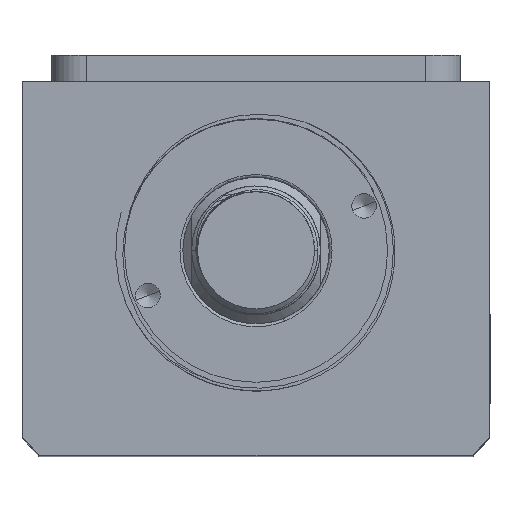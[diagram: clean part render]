
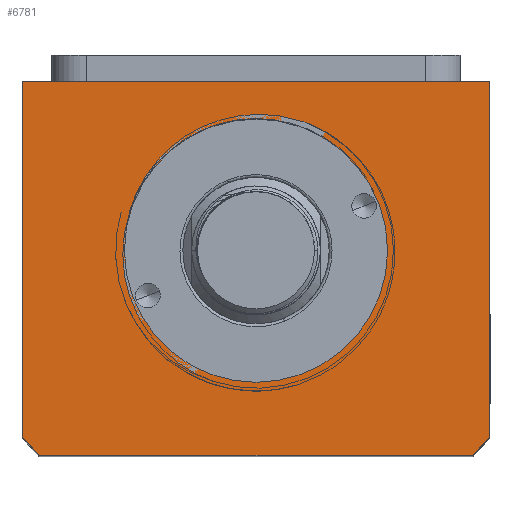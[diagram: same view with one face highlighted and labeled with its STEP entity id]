
A CAD part, top view. The second image highlights one B-rep face of the part: STEP entity #6781.
In plain terms, the highlighted planar face has unit normal (0, 0, 1).
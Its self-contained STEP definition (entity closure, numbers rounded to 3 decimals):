
#88 = CARTESIAN_POINT ( 'NONE',  ( -40., 32., 150. ) ) ;
#210 = VERTEX_POINT ( 'NONE', #13234 ) ;
#245 = AXIS2_PLACEMENT_3D ( 'NONE', #942, #8417, #2013 ) ;
#528 = CARTESIAN_POINT ( 'NONE',  ( 40., 32., 150. ) ) ;
#724 = CARTESIAN_POINT ( 'NONE',  ( -37.094, -32., 150. ) ) ;
#770 = VERTEX_POINT ( 'NONE', #88 ) ;
#860 = DIRECTION ( 'NONE',  ( 1., 0., 0. ) ) ;
#869 = CARTESIAN_POINT ( 'NONE',  ( -40., 32., 150. ) ) ;
#942 = CARTESIAN_POINT ( 'NONE',  ( 0., 3., 150. ) ) ;
#1290 = DIRECTION ( 'NONE',  ( 0., 0., 1. ) ) ;
#1436 = ORIENTED_EDGE ( 'NONE', *, *, #13799, .T. ) ;
#1455 = LINE ( 'NONE', #4031, #9658 ) ;
#1466 = EDGE_CURVE ( 'NONE', #770, #10647, #1958, .T. ) ;
#1630 = CARTESIAN_POINT ( 'NONE',  ( 0., 0., 150. ) ) ;
#1958 = LINE ( 'NONE', #10070, #12748 ) ;
#2013 = DIRECTION ( 'NONE',  ( 1., 0., 0. ) ) ;
#2250 = EDGE_LOOP ( 'NONE', ( #5442, #6076 ) ) ;
#2334 = CIRCLE ( 'NONE', #9246, 22.5 ) ;
#2498 = VERTEX_POINT ( 'NONE', #10536 ) ;
#2691 = DIRECTION ( 'NONE',  ( 1., 0., 0. ) ) ;
#3101 = DIRECTION ( 'NONE',  ( 0., 0., 1. ) ) ;
#3407 = EDGE_CURVE ( 'NONE', #13457, #770, #5329, .T. ) ;
#3571 = EDGE_LOOP ( 'NONE', ( #12206, #1436, #10967, #11428, #9200, #4033 ) ) ;
#4031 = CARTESIAN_POINT ( 'NONE',  ( -40., -32., 150. ) ) ;
#4033 = ORIENTED_EDGE ( 'NONE', *, *, #3407, .T. ) ;
#4820 = PLANE ( 'NONE',  #11129 ) ;
#5256 = CIRCLE ( 'NONE', #8353, 51. ) ;
#5290 = FACE_OUTER_BOUND ( 'NONE', #3571, .T. ) ;
#5329 = LINE ( 'NONE', #869, #12926 ) ;
#5442 = ORIENTED_EDGE ( 'NONE', *, *, #10475, .F. ) ;
#6076 = ORIENTED_EDGE ( 'NONE', *, *, #11186, .F. ) ;
#6132 = CARTESIAN_POINT ( 'NONE',  ( 0., 3., 150. ) ) ;
#6326 = VERTEX_POINT ( 'NONE', #8418 ) ;
#6487 = EDGE_CURVE ( 'NONE', #2498, #13457, #9851, .T. ) ;
#6691 = CIRCLE ( 'NONE', #9071, 22.5 ) ;
#6781 = ADVANCED_FACE ( 'NONE', ( #10695, #5290 ), #4820, .T. ) ;
#6866 = VERTEX_POINT ( 'NONE', #724 ) ;
#6916 = EDGE_CURVE ( 'NONE', #6866, #6326, #1455, .T. ) ;
#7211 = DIRECTION ( 'NONE',  ( 1., 0., 0. ) ) ;
#7524 = EDGE_CURVE ( 'NONE', #6326, #2498, #9483, .T. ) ;
#7689 = CARTESIAN_POINT ( 'NONE',  ( 0., 3., 150. ) ) ;
#8087 = DIRECTION ( 'NONE',  ( 0., 1., 0. ) ) ;
#8353 = AXIS2_PLACEMENT_3D ( 'NONE', #9543, #3101, #10645 ) ;
#8417 = DIRECTION ( 'NONE',  ( 0., 0., 1. ) ) ;
#8418 = CARTESIAN_POINT ( 'NONE',  ( 37.094, -32., 150. ) ) ;
#8772 = DIRECTION ( 'NONE',  ( 1., 0., 0. ) ) ;
#9071 = AXIS2_PLACEMENT_3D ( 'NONE', #7689, #1290, #8772 ) ;
#9112 = DIRECTION ( 'NONE',  ( 0., 0., 1. ) ) ;
#9137 = DIRECTION ( 'NONE',  ( 0., -1., 0. ) ) ;
#9200 = ORIENTED_EDGE ( 'NONE', *, *, #6487, .T. ) ;
#9246 = AXIS2_PLACEMENT_3D ( 'NONE', #6132, #13697, #7211 ) ;
#9447 = DIRECTION ( 'NONE',  ( -1., 0., 0. ) ) ;
#9483 = CIRCLE ( 'NONE', #245, 51. ) ;
#9543 = CARTESIAN_POINT ( 'NONE',  ( 0., 3., 150. ) ) ;
#9658 = VECTOR ( 'NONE', #860, 1000. ) ;
#9851 = LINE ( 'NONE', #12429, #12065 ) ;
#10070 = CARTESIAN_POINT ( 'NONE',  ( -40., 32., 150. ) ) ;
#10475 = EDGE_CURVE ( 'NONE', #210, #13242, #6691, .T. ) ;
#10536 = CARTESIAN_POINT ( 'NONE',  ( 40., -28.639, 150. ) ) ;
#10645 = DIRECTION ( 'NONE',  ( 1., 0., 0. ) ) ;
#10647 = VERTEX_POINT ( 'NONE', #13212 ) ;
#10695 = FACE_BOUND ( 'NONE', #2250, .T. ) ;
#10967 = ORIENTED_EDGE ( 'NONE', *, *, #6916, .T. ) ;
#11129 = AXIS2_PLACEMENT_3D ( 'NONE', #1630, #9112, #2691 ) ;
#11186 = EDGE_CURVE ( 'NONE', #13242, #210, #2334, .T. ) ;
#11428 = ORIENTED_EDGE ( 'NONE', *, *, #7524, .T. ) ;
#12065 = VECTOR ( 'NONE', #8087, 1000. ) ;
#12206 = ORIENTED_EDGE ( 'NONE', *, *, #1466, .T. ) ;
#12429 = CARTESIAN_POINT ( 'NONE',  ( 40., 32., 150. ) ) ;
#12648 = CARTESIAN_POINT ( 'NONE',  ( -22.5, 3., 150. ) ) ;
#12748 = VECTOR ( 'NONE', #9137, 1000. ) ;
#12926 = VECTOR ( 'NONE', #9447, 1000. ) ;
#13212 = CARTESIAN_POINT ( 'NONE',  ( -40., -28.639, 150. ) ) ;
#13234 = CARTESIAN_POINT ( 'NONE',  ( 22.5, 3., 150. ) ) ;
#13242 = VERTEX_POINT ( 'NONE', #12648 ) ;
#13457 = VERTEX_POINT ( 'NONE', #528 ) ;
#13697 = DIRECTION ( 'NONE',  ( 0., 0., 1. ) ) ;
#13799 = EDGE_CURVE ( 'NONE', #10647, #6866, #5256, .T. ) ;
